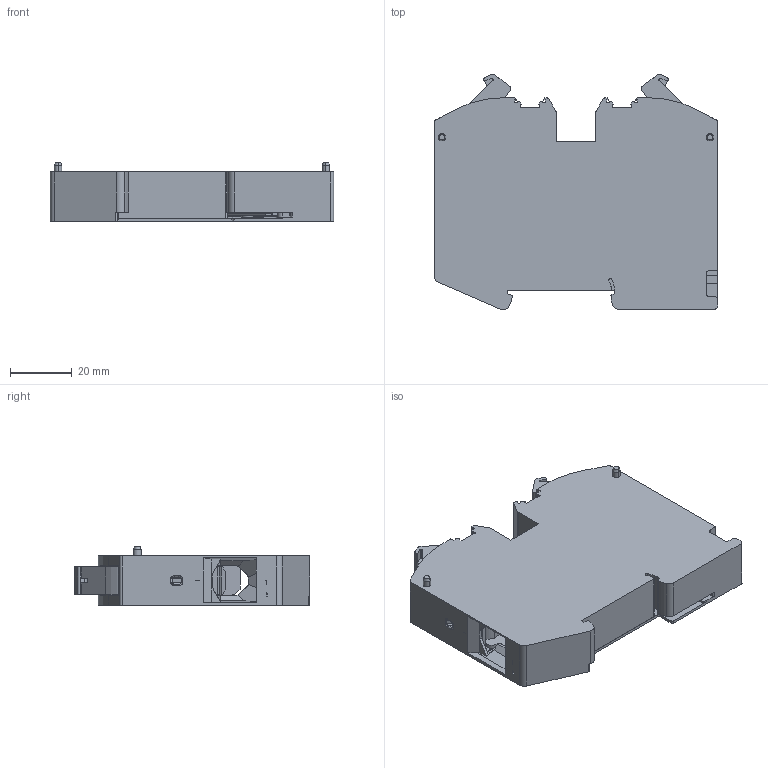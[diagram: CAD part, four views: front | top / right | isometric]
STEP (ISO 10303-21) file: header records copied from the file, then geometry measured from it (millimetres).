
FILE_DESCRIPTION((''),'2;1');
FILE_NAME('UPT-3-5ASSY','2024-03-29T15:59:58',('Administrator'),(''),'CREO PARAMETRIC BY PTC INC, 2018050','CREO PARAMETRIC BY PTC INC, 2018050','');
FILE_SCHEMA(('CONFIG_CONTROL_DESIGN'));
Products named in the file (1): UPT-3-5ASSY
Bounding box: 91.6 x 76.2 x 19 mm (x, y, z)
Volume: 45194.1 mm3; surface area: 57521.9 mm2
Topology: 4 solids, 31 shells, 3204 faces, 9264 edges, 6176 vertices
Faces by surface type: plane 1551, cylinder 1419, cone 74, bspline 66, torus 50, extrusion 44
Entity records: 123302 total; most frequent: CARTESIAN_POINT 36390, ORIENTED_EDGE 18528, DIRECTION 18387, EDGE_CURVE 9264, AXIS2_PLACEMENT_3D 6416, VERTEX_POINT 6176, VECTOR 5555, LINE 5511
